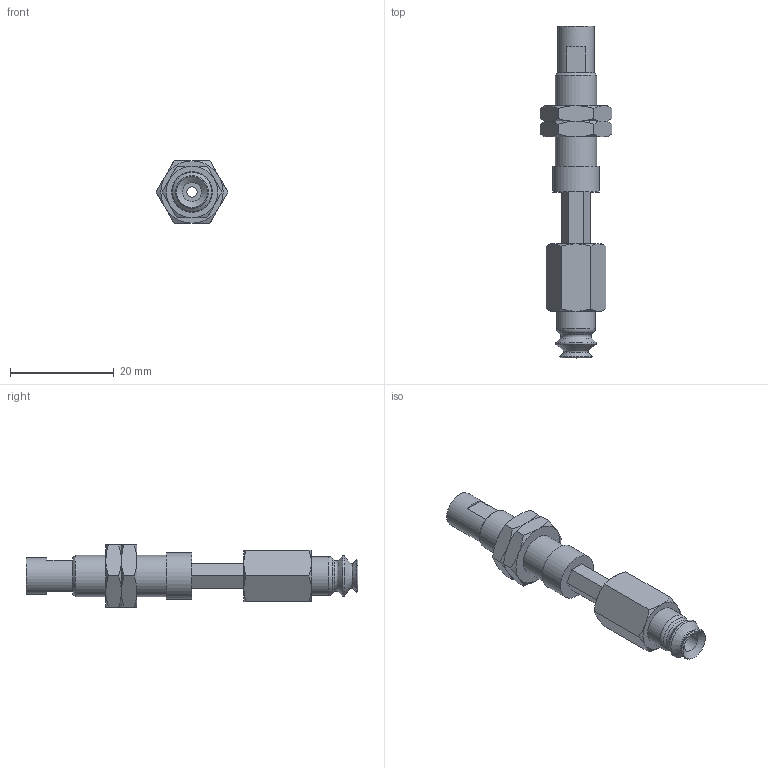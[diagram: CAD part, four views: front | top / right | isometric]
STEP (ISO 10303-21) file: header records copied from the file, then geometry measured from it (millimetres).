
FILE_DESCRIPTION(('STEP AP203'),'1');
FILE_NAME('.stp','2025-08-27T06:19:31',(' '),(' '),'Spatial InterOp 3D',' ',' ');
FILE_SCHEMA(('CONFIG_CONTROL_DESIGN'));
Length unit declared in the file: millimetre
Products named in the file (6): BNABPJTH-6-10-※; ADAPTER; NAPATH-10A-10--M; NAPJH-6-10-NUT; NAPJTH-6-10-FBODY; BPJG-6-※
Assembly tree (6 placements, depth 2):
  BNABPJTH-6-10-※
    ADAPTER
    NAPATH-10A-10--M
    NAPJH-6-10-NUT  x2
    NAPJTH-6-10-FBODY
    BPJG-6-※
Bounding box: 13.86 x 64 x 12 mm (x, y, z)
Volume: 3401.3 mm3; surface area: 4042.6 mm2
Topology: 6 solids, 6 shells, 125 faces, 275 edges, 167 vertices
Faces by surface type: plane 51, cone 49, cylinder 14, torus 11
Full cylindrical faces by diameter (mm): 2 x2, 3.64 x1, 4 x2, 4.134 x1, 6 x2, 7 x1, 7.188 x2, 7.5 x1, 8 x1, 9 x1
Entity records: 3020 total; most frequent: CARTESIAN_POINT 703, DIRECTION 422, ORIENTED_EDGE 358, AXIS2_PLACEMENT_3D 182, EDGE_CURVE 179, EDGE_LOOP 152, VERTEX_POINT 127, FACE_OUTER_BOUND 126
